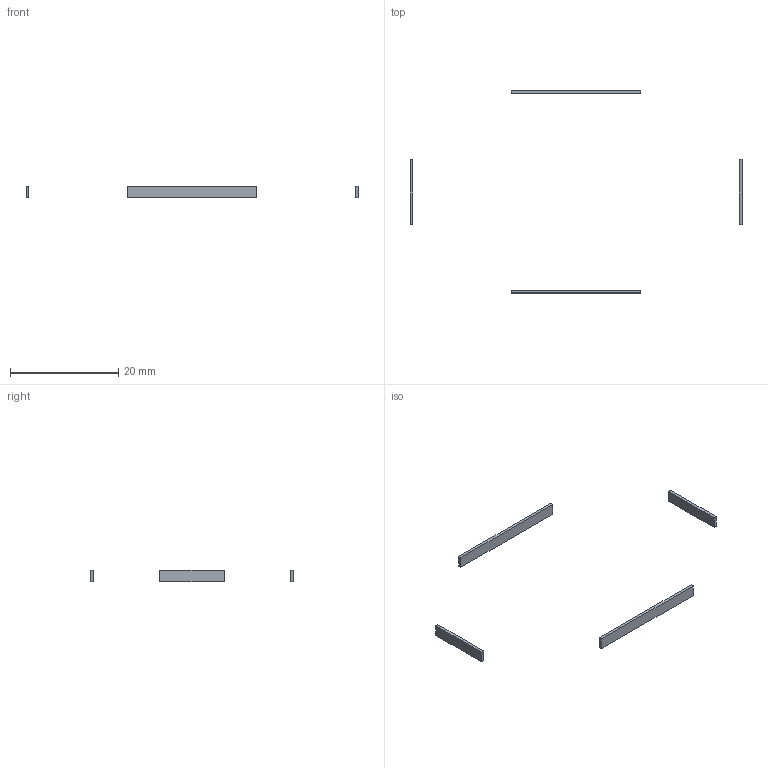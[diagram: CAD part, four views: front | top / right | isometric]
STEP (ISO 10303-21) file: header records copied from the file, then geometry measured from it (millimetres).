
FILE_DESCRIPTION(('Open CASCADE Model'),'2;1');
FILE_NAME('Open CASCADE Shape Model','2026-09-09T12:58:10',('Author'),( 'Open CASCADE'),'Open CASCADE STEP processor 7.9','Open CASCADE 7.9' ,'Unknown');
FILE_SCHEMA(('AUTOMOTIVE_DESIGN { 1 0 10303 214 1 1 1 1 }'));
Length unit declared in the file: millimetre
Products named in the file (5): Open CASCADE STEP translator 7.9 29; Open CASCADE STEP translator 7.9 29.1; Open CASCADE STEP translator 7.9 29.2; Open CASCADE STEP translator 7.9 29.3; Open CASCADE STEP translator 7.9 29.4
Assembly tree (4 placements, depth 2):
  Open CASCADE STEP translator 7.9 29
    Open CASCADE STEP translator 7.9 29.1
    Open CASCADE STEP translator 7.9 29.2
    Open CASCADE STEP translator 7.9 29.3
    Open CASCADE STEP translator 7.9 29.4
Bounding box: 61.3 x 37.3 x 2.2 mm (x, y, z)
Volume: 87.1 mm3; surface area: 405.7 mm2
Topology: 4 solids, 4 shells, 24 faces, 48 edges, 32 vertices
Faces by surface type: plane 24
Entity records: 1312 total; most frequent: CARTESIAN_POINT 205, DIRECTION 202, LINE 144, VECTOR 144, ORIENTED_EDGE 96, PCURVE 96, DEFINITIONAL_REPRESENTATION 96, EDGE_CURVE 48
